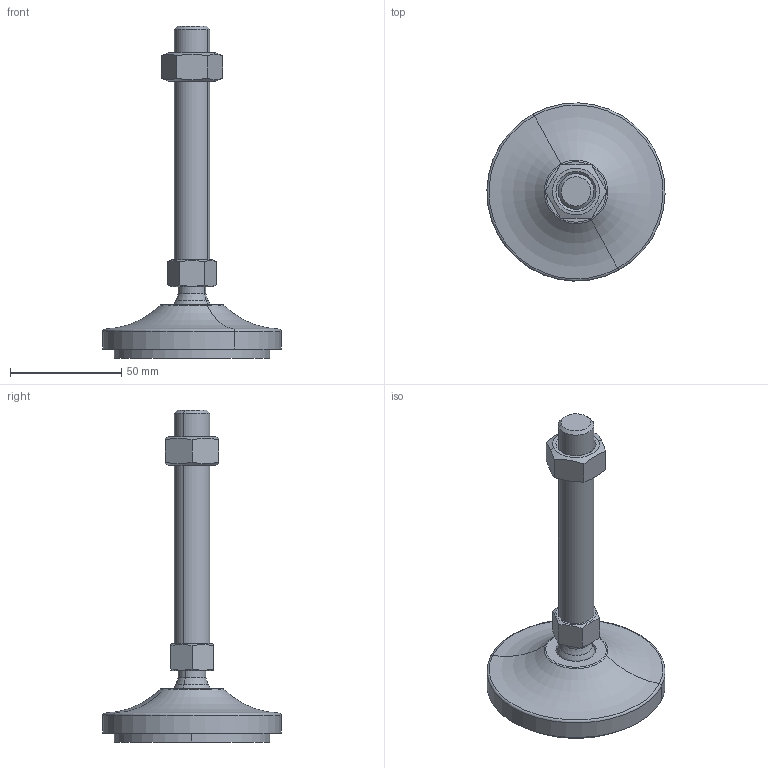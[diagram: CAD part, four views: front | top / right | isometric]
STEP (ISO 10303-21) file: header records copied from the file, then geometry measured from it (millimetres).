
FILE_DESCRIPTION(('CATIA V5 STEP Exchange'),'2;1');
FILE_NAME('C:\Users\ALI OZGUN\Desktop\alhan\saplama2\560801615AV.stp','2017-09-21T10:30:24+00:00',('none'),('none'),'CATIA Version 5 Release 21 GA (IN-10)','CATIA V5 STEP AP203','none');
FILE_SCHEMA(('CONFIG_CONTROL_DESIGN'));
Length unit declared in the file: millimetre
Products named in the file (1): 560801615AV
Bounding box: 79.98 x 79.98 x 149 mm (x, y, z)
Volume: 107663.1 mm3; surface area: 33359.5 mm2
Topology: 4 solids, 4 shells, 64 faces, 142 edges, 87 vertices
Faces by surface type: plane 22, cylinder 16, cone 16, torus 6, revolution 2, sphere 2
Entity records: 1931 total; most frequent: CARTESIAN_POINT 623, ORIENTED_EDGE 280, DIRECTION 198, EDGE_CURVE 140, AXIS2_PLACEMENT_3D 107, VERTEX_POINT 87, EDGE_LOOP 71, ADVANCED_FACE 64
